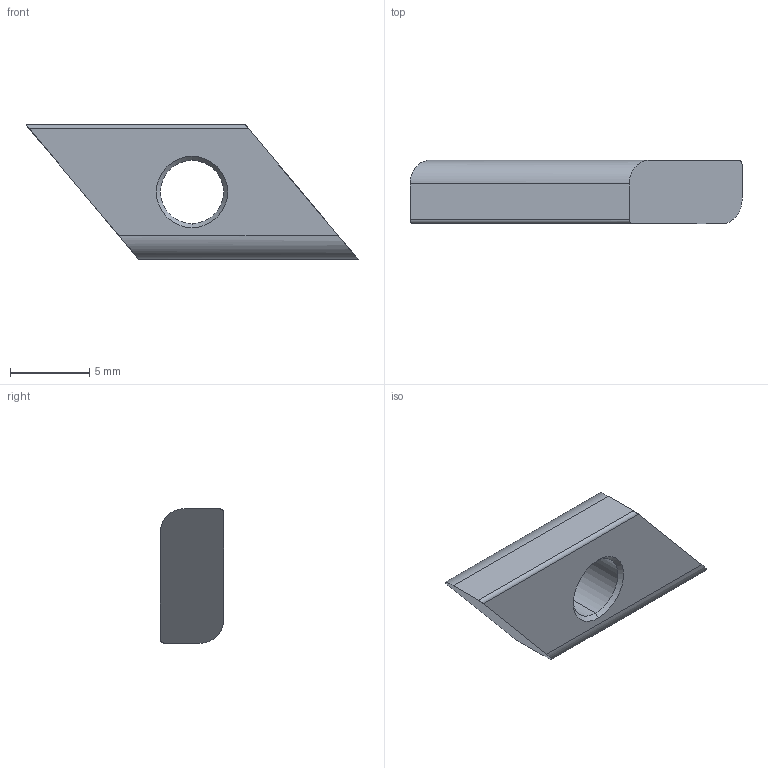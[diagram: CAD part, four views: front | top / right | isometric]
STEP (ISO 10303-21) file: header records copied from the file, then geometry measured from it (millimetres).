
FILE_DESCRIPTION (( 'STEP AP203' ), '1' );
FILE_NAME ('5191.STEP', '2017-04-13T16:46:42', ( '' ), ( '' ), 'SwSTEP 2.0', 'SolidWorks 2014', '' );
FILE_SCHEMA (( 'CONFIG_CONTROL_DESIGN' ));
Length unit declared in the file: millimetre
Products named in the file (1): 5191
Bounding box: 21 x 4 x 8.5 mm (x, y, z)
Volume: 406.7 mm3; surface area: 433.7 mm2
Topology: 1 solids, 1 shells, 16 faces, 38 edges, 24 vertices
Faces by surface type: cylinder 6, plane 6, cone 4
Entity records: 539 total; most frequent: CARTESIAN_POINT 103, ORIENTED_EDGE 76, DIRECTION 72, EDGE_CURVE 38, AXIS2_PLACEMENT_3D 25, VERTEX_POINT 24, LINE 22, VECTOR 22
